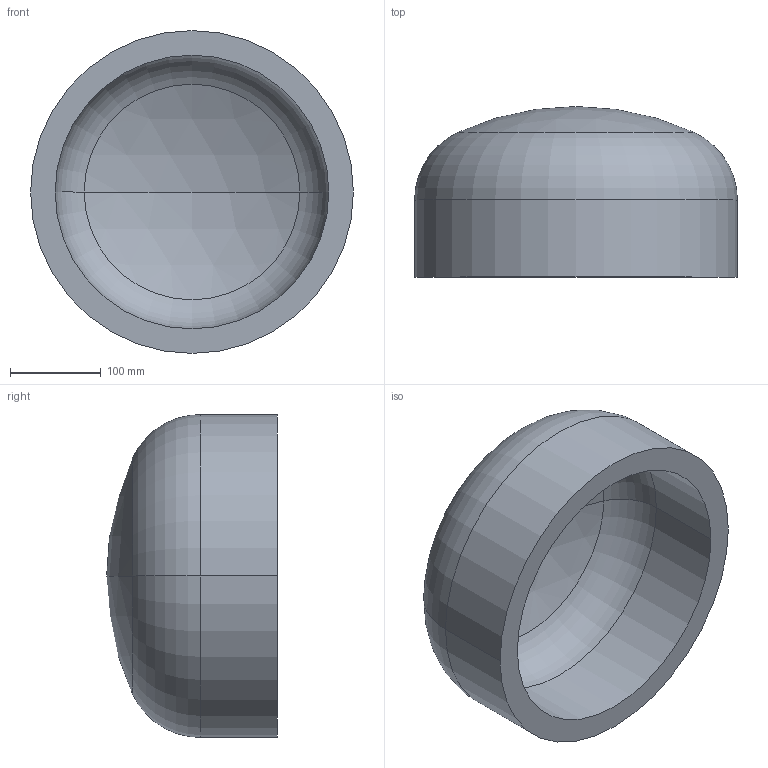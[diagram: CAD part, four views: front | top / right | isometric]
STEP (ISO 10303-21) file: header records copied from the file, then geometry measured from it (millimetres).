
FILE_DESCRIPTION (( 'STEP AP203' ), '1' );
FILE_NAME ('DIN 28013 Korbbogenform_-_Boden DIN 28013 - 355,6 x 85 - I - s=27.step', '2016-07-01T07:47:18', ( '' ), ( '' ), 'SwSTEP 2.0', 'SolidWorks 2013', '' );
FILE_SCHEMA (( 'CONFIG_CONTROL_DESIGN' ));
Length unit declared in the file: millimetre
Products named in the file (1): DIN 28013 Korbbogenform_-_Boden DIN 28013 - 355,6 x 85 - I - s=27
Bounding box: 355.6 x 188 x 355.6 mm (x, y, z)
Volume: 5747723.6 mm3; surface area: 455156.9 mm2
Topology: 1 solids, 1 shells, 13 faces, 24 edges, 14 vertices
Faces by surface type: torus 4, cylinder 4, sphere 4, plane 1
Entity records: 407 total; most frequent: DIRECTION 72, CARTESIAN_POINT 52, ORIENTED_EDGE 48, AXIS2_PLACEMENT_3D 34, EDGE_CURVE 24, CIRCLE 20, VERTEX_POINT 14, EDGE_LOOP 14
